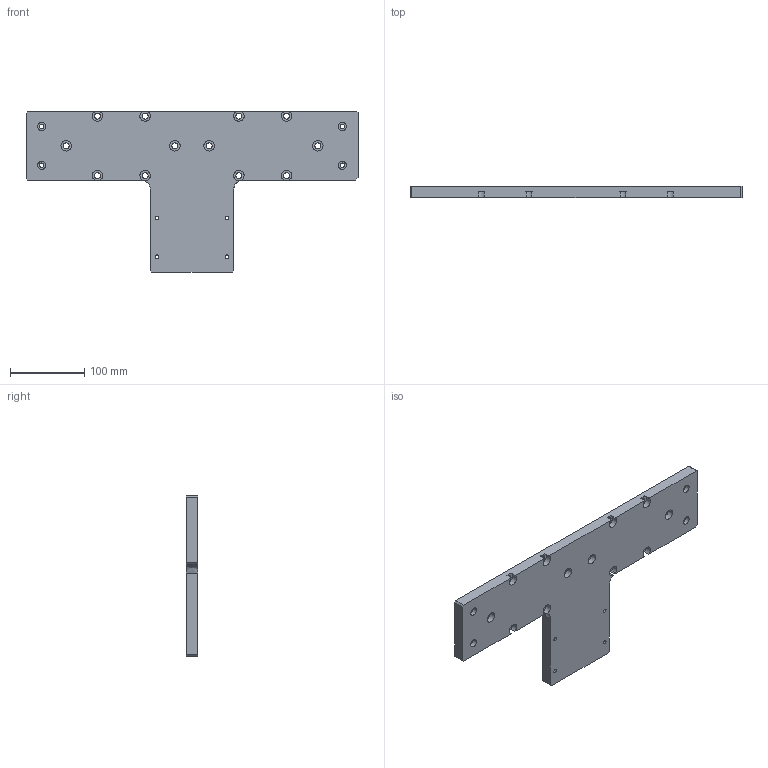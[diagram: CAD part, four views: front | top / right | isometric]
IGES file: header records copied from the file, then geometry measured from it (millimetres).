
Start section:  PTC IGES file: n80-n100l-ft.igs
Global section: file name: n80-n100l-ft.igs; native system: Pro/ENGINEER by Parametric Technology Corporation; preprocessor: 2008230; author: Owner; organization: Unknown; date: 20121212.125443; units: millimetre
Bounding box: 446 x 15 x 216 mm (x, y, z)
Surface area: 135937.3 mm2 (no closed solid volume)
Topology: 0 solids, 0 shells, 99 faces, 534 edges, 534 vertices
Faces by surface type: revolution 66, bspline 33
